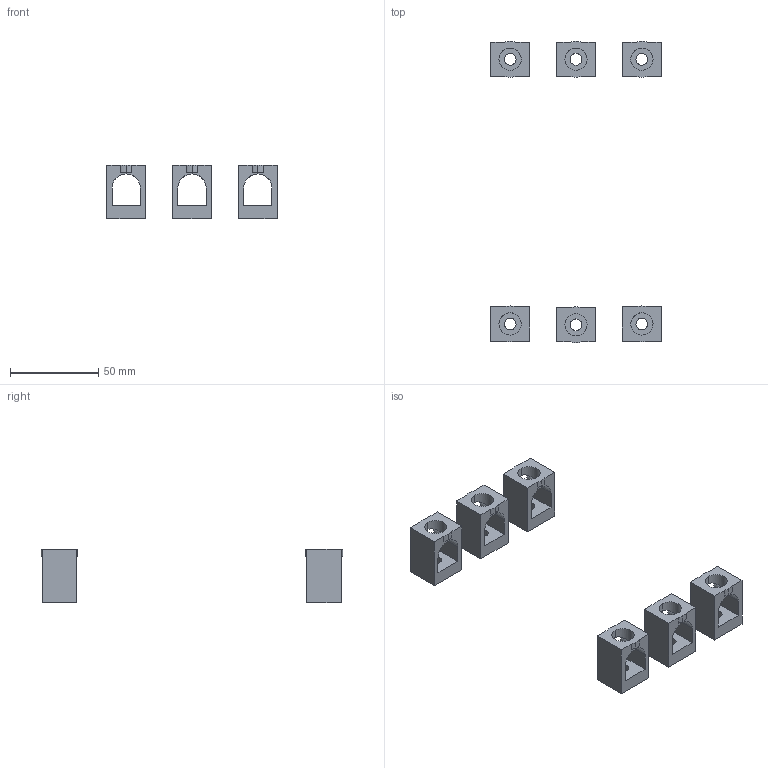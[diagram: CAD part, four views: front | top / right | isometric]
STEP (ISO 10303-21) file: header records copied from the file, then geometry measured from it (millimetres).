
FILE_DESCRIPTION (( 'STEP AP214' ), '1' );
FILE_NAME ('Êîìïëåêò çàæèìîâ îäíîãíåçäíûõ 185 êâ ìì ÂÀ04-36ÂÀ51-35-ÓÕË3 16-160 À.STEP', '2023-07-24T12:35:44', ( '' ), ( '' ), 'SwSTEP 2.0', 'SolidWorks 2018', '' );
FILE_SCHEMA (( 'AUTOMOTIVE_DESIGN' ));
Length unit declared in the file: millimetre
Products named in the file (1): Êîìïëåêò çàæèìîâ îäíîãíåçäíûõ 185 êâ ìì ÂÀ04-36ÂÀ51-35-ÓÕË3 16-160 À
Bounding box: 96.68 x 170.95 x 30.5 mm (x, y, z)
Volume: 42030.6 mm3; surface area: 24794 mm2
Topology: 6 solids, 6 shells, 114 faces, 306 edges, 204 vertices
Faces by surface type: plane 66, cylinder 48
Entity records: 5495 total; most frequent: CARTESIAN_POINT 1165, ORIENTED_EDGE 612, DIRECTION 608, EDGE_CURVE 306, LINE 210, VECTOR 210, VERTEX_POINT 204, AXIS2_PLACEMENT_3D 199
